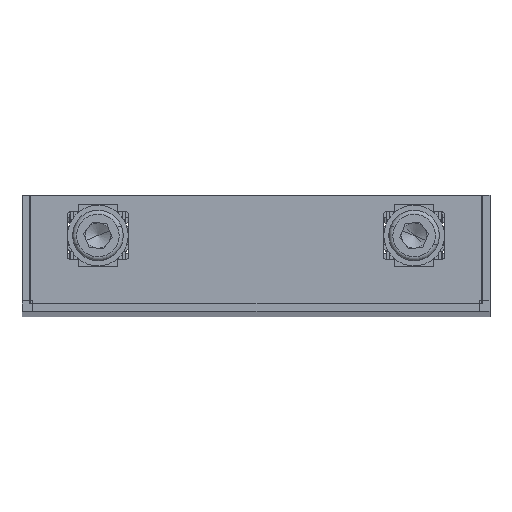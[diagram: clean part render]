
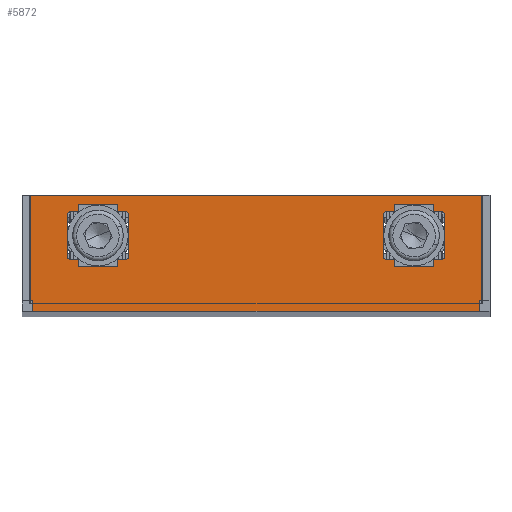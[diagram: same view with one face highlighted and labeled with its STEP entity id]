
A CAD part, top view. The second image highlights one B-rep face of the part: STEP entity #5872.
In plain terms, the highlighted planar face has unit normal (0, 0, 1).
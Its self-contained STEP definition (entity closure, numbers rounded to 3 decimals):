
#5414 = VERTEX_POINT('',#5415);
#5415 = CARTESIAN_POINT('',(-44.15,-1.5,307.));
#5494 = VERTEX_POINT('',#5495);
#5495 = CARTESIAN_POINT('',(44.15,-1.5,307.));
#5501 = EDGE_CURVE('',#5414,#5494,#5502,.T.);
#5502 = LINE('',#5503,#5504);
#5503 = CARTESIAN_POINT('',(-44.75,-1.5,307.));
#5504 = VECTOR('',#5505,1.);
#5505 = DIRECTION('',(1.,0.,0.));
#5518 = VERTEX_POINT('',#5519);
#5519 = CARTESIAN_POINT('',(44.15,0.6,307.));
#5525 = EDGE_CURVE('',#5518,#5494,#5526,.T.);
#5526 = LINE('',#5527,#5528);
#5527 = CARTESIAN_POINT('',(44.15,0.,307.));
#5528 = VECTOR('',#5529,1.);
#5529 = DIRECTION('',(-0.,-1.,-0.));
#5560 = EDGE_CURVE('',#5561,#5414,#5563,.T.);
#5561 = VERTEX_POINT('',#5562);
#5562 = CARTESIAN_POINT('',(-44.15,0.6,307.));
#5563 = LINE('',#5564,#5565);
#5564 = CARTESIAN_POINT('',(-44.15,0.6,307.));
#5565 = VECTOR('',#5566,1.);
#5566 = DIRECTION('',(-0.,-1.,-0.));
#5591 = EDGE_CURVE('',#5592,#5594,#5596,.T.);
#5592 = VERTEX_POINT('',#5593);
#5593 = CARTESIAN_POINT('',(-44.65,0.6,307.));
#5594 = VERTEX_POINT('',#5595);
#5595 = CARTESIAN_POINT('',(-44.65,21.5,307.));
#5596 = LINE('',#5597,#5598);
#5597 = CARTESIAN_POINT('',(-44.65,0.6,307.));
#5598 = VECTOR('',#5599,1.);
#5599 = DIRECTION('',(0.,1.,0.));
#5631 = EDGE_CURVE('',#5632,#5634,#5636,.T.);
#5632 = VERTEX_POINT('',#5633);
#5633 = CARTESIAN_POINT('',(44.65,0.6,307.));
#5634 = VERTEX_POINT('',#5635);
#5635 = CARTESIAN_POINT('',(44.65,21.5,307.));
#5636 = LINE('',#5637,#5638);
#5637 = CARTESIAN_POINT('',(44.65,0.6,307.));
#5638 = VECTOR('',#5639,1.);
#5639 = DIRECTION('',(0.,1.,0.));
#5678 = EDGE_CURVE('',#5634,#5594,#5679,.T.);
#5679 = LINE('',#5680,#5681);
#5680 = CARTESIAN_POINT('',(0.,21.5,307.));
#5681 = VECTOR('',#5682,1.);
#5682 = DIRECTION('',(-1.,0.,0.));
#5859 = EDGE_CURVE('',#5561,#5592,#5860,.T.);
#5860 = LINE('',#5861,#5862);
#5861 = CARTESIAN_POINT('',(-44.15,0.6,307.));
#5862 = VECTOR('',#5863,1.);
#5863 = DIRECTION('',(-1.,0.,0.));
#5872 = ADVANCED_FACE('',(#5873,#5943,#6013),#6028,.F.);
#5873 = FACE_BOUND('',#5874,.T.);
#5874 = EDGE_LOOP('',(#5875,#5885,#5894,#5902,#5911,#5919,#5928,#5936));
#5875 = ORIENTED_EDGE('',*,*,#5876,.F.);
#5876 = EDGE_CURVE('',#5877,#5879,#5881,.T.);
#5877 = VERTEX_POINT('',#5878);
#5878 = CARTESIAN_POINT('',(-36.75,8.75,307.));
#5879 = VERTEX_POINT('',#5880);
#5880 = CARTESIAN_POINT('',(-25.75,8.75,307.));
#5881 = LINE('',#5882,#5883);
#5882 = CARTESIAN_POINT('',(-27.,8.75,307.));
#5883 = VECTOR('',#5884,1.);
#5884 = DIRECTION('',(1.,-0.,-0.));
#5885 = ORIENTED_EDGE('',*,*,#5886,.F.);
#5886 = EDGE_CURVE('',#5887,#5877,#5889,.T.);
#5887 = VERTEX_POINT('',#5888);
#5888 = CARTESIAN_POINT('',(-37.25,9.25,307.));
#5889 = CIRCLE('',#5890,0.5);
#5890 = AXIS2_PLACEMENT_3D('',#5891,#5892,#5893);
#5891 = CARTESIAN_POINT('',(-36.75,9.25,307.));
#5892 = DIRECTION('',(0.,0.,1.));
#5893 = DIRECTION('',(-1.,0.,0.));
#5894 = ORIENTED_EDGE('',*,*,#5895,.F.);
#5895 = EDGE_CURVE('',#5896,#5887,#5898,.T.);
#5896 = VERTEX_POINT('',#5897);
#5897 = CARTESIAN_POINT('',(-37.25,17.75,307.));
#5898 = LINE('',#5899,#5900);
#5899 = CARTESIAN_POINT('',(-37.25,9.25,307.));
#5900 = VECTOR('',#5901,1.);
#5901 = DIRECTION('',(0.,-1.,-0.));
#5902 = ORIENTED_EDGE('',*,*,#5903,.F.);
#5903 = EDGE_CURVE('',#5904,#5896,#5906,.T.);
#5904 = VERTEX_POINT('',#5905);
#5905 = CARTESIAN_POINT('',(-36.75,18.25,307.));
#5906 = CIRCLE('',#5907,0.5);
#5907 = AXIS2_PLACEMENT_3D('',#5908,#5909,#5910);
#5908 = CARTESIAN_POINT('',(-36.75,17.75,307.));
#5909 = DIRECTION('',(0.,0.,1.));
#5910 = DIRECTION('',(-1.,0.,0.));
#5911 = ORIENTED_EDGE('',*,*,#5912,.F.);
#5912 = EDGE_CURVE('',#5913,#5904,#5915,.T.);
#5913 = VERTEX_POINT('',#5914);
#5914 = CARTESIAN_POINT('',(-25.75,18.25,307.));
#5915 = LINE('',#5916,#5917);
#5916 = CARTESIAN_POINT('',(-27.,18.25,307.));
#5917 = VECTOR('',#5918,1.);
#5918 = DIRECTION('',(-1.,0.,0.));
#5919 = ORIENTED_EDGE('',*,*,#5920,.F.);
#5920 = EDGE_CURVE('',#5921,#5913,#5923,.T.);
#5921 = VERTEX_POINT('',#5922);
#5922 = CARTESIAN_POINT('',(-25.25,17.75,307.));
#5923 = CIRCLE('',#5924,0.5);
#5924 = AXIS2_PLACEMENT_3D('',#5925,#5926,#5927);
#5925 = CARTESIAN_POINT('',(-25.75,17.75,307.));
#5926 = DIRECTION('',(0.,0.,1.));
#5927 = DIRECTION('',(-1.,0.,0.));
#5928 = ORIENTED_EDGE('',*,*,#5929,.F.);
#5929 = EDGE_CURVE('',#5930,#5921,#5932,.T.);
#5930 = VERTEX_POINT('',#5931);
#5931 = CARTESIAN_POINT('',(-25.25,9.25,307.));
#5932 = LINE('',#5933,#5934);
#5933 = CARTESIAN_POINT('',(-25.25,17.75,307.));
#5934 = VECTOR('',#5935,1.);
#5935 = DIRECTION('',(0.,1.,-0.));
#5936 = ORIENTED_EDGE('',*,*,#5937,.F.);
#5937 = EDGE_CURVE('',#5879,#5930,#5938,.T.);
#5938 = CIRCLE('',#5939,0.5);
#5939 = AXIS2_PLACEMENT_3D('',#5940,#5941,#5942);
#5940 = CARTESIAN_POINT('',(-25.75,9.25,307.));
#5941 = DIRECTION('',(0.,0.,1.));
#5942 = DIRECTION('',(-1.,0.,0.));
#5943 = FACE_BOUND('',#5944,.T.);
#5944 = EDGE_LOOP('',(#5945,#5955,#5964,#5972,#5981,#5989,#5998,#6006));
#5945 = ORIENTED_EDGE('',*,*,#5946,.F.);
#5946 = EDGE_CURVE('',#5947,#5949,#5951,.T.);
#5947 = VERTEX_POINT('',#5948);
#5948 = CARTESIAN_POINT('',(25.75,8.75,307.));
#5949 = VERTEX_POINT('',#5950);
#5950 = CARTESIAN_POINT('',(36.75,8.75,307.));
#5951 = LINE('',#5952,#5953);
#5952 = CARTESIAN_POINT('',(27.,8.75,307.));
#5953 = VECTOR('',#5954,1.);
#5954 = DIRECTION('',(1.,0.,0.));
#5955 = ORIENTED_EDGE('',*,*,#5956,.F.);
#5956 = EDGE_CURVE('',#5957,#5947,#5959,.T.);
#5957 = VERTEX_POINT('',#5958);
#5958 = CARTESIAN_POINT('',(25.25,9.25,307.));
#5959 = CIRCLE('',#5960,0.5);
#5960 = AXIS2_PLACEMENT_3D('',#5961,#5962,#5963);
#5961 = CARTESIAN_POINT('',(25.75,9.25,307.));
#5962 = DIRECTION('',(0.,0.,1.));
#5963 = DIRECTION('',(1.,0.,-0.));
#5964 = ORIENTED_EDGE('',*,*,#5965,.F.);
#5965 = EDGE_CURVE('',#5966,#5957,#5968,.T.);
#5966 = VERTEX_POINT('',#5967);
#5967 = CARTESIAN_POINT('',(25.25,17.75,307.));
#5968 = LINE('',#5969,#5970);
#5969 = CARTESIAN_POINT('',(25.25,17.75,307.));
#5970 = VECTOR('',#5971,1.);
#5971 = DIRECTION('',(0.,-1.,0.));
#5972 = ORIENTED_EDGE('',*,*,#5973,.F.);
#5973 = EDGE_CURVE('',#5974,#5966,#5976,.T.);
#5974 = VERTEX_POINT('',#5975);
#5975 = CARTESIAN_POINT('',(25.75,18.25,307.));
#5976 = CIRCLE('',#5977,0.5);
#5977 = AXIS2_PLACEMENT_3D('',#5978,#5979,#5980);
#5978 = CARTESIAN_POINT('',(25.75,17.75,307.));
#5979 = DIRECTION('',(0.,0.,1.));
#5980 = DIRECTION('',(1.,0.,-0.));
#5981 = ORIENTED_EDGE('',*,*,#5982,.F.);
#5982 = EDGE_CURVE('',#5983,#5974,#5985,.T.);
#5983 = VERTEX_POINT('',#5984);
#5984 = CARTESIAN_POINT('',(36.75,18.25,307.));
#5985 = LINE('',#5986,#5987);
#5986 = CARTESIAN_POINT('',(27.,18.25,307.));
#5987 = VECTOR('',#5988,1.);
#5988 = DIRECTION('',(-1.,0.,-0.));
#5989 = ORIENTED_EDGE('',*,*,#5990,.F.);
#5990 = EDGE_CURVE('',#5991,#5983,#5993,.T.);
#5991 = VERTEX_POINT('',#5992);
#5992 = CARTESIAN_POINT('',(37.25,17.75,307.));
#5993 = CIRCLE('',#5994,0.5);
#5994 = AXIS2_PLACEMENT_3D('',#5995,#5996,#5997);
#5995 = CARTESIAN_POINT('',(36.75,17.75,307.));
#5996 = DIRECTION('',(0.,0.,1.));
#5997 = DIRECTION('',(1.,0.,-0.));
#5998 = ORIENTED_EDGE('',*,*,#5999,.F.);
#5999 = EDGE_CURVE('',#6000,#5991,#6002,.T.);
#6000 = VERTEX_POINT('',#6001);
#6001 = CARTESIAN_POINT('',(37.25,9.25,307.));
#6002 = LINE('',#6003,#6004);
#6003 = CARTESIAN_POINT('',(37.25,9.25,307.));
#6004 = VECTOR('',#6005,1.);
#6005 = DIRECTION('',(0.,1.,0.));
#6006 = ORIENTED_EDGE('',*,*,#6007,.F.);
#6007 = EDGE_CURVE('',#5949,#6000,#6008,.T.);
#6008 = CIRCLE('',#6009,0.5);
#6009 = AXIS2_PLACEMENT_3D('',#6010,#6011,#6012);
#6010 = CARTESIAN_POINT('',(36.75,9.25,307.));
#6011 = DIRECTION('',(0.,0.,1.));
#6012 = DIRECTION('',(1.,0.,-0.));
#6013 = FACE_BOUND('',#6014,.T.);
#6014 = EDGE_LOOP('',(#6015,#6016,#6017,#6018,#6019,#6025,#6026,#6027));
#6015 = ORIENTED_EDGE('',*,*,#5859,.F.);
#6016 = ORIENTED_EDGE('',*,*,#5560,.T.);
#6017 = ORIENTED_EDGE('',*,*,#5501,.T.);
#6018 = ORIENTED_EDGE('',*,*,#5525,.F.);
#6019 = ORIENTED_EDGE('',*,*,#6020,.T.);
#6020 = EDGE_CURVE('',#5518,#5632,#6021,.T.);
#6021 = LINE('',#6022,#6023);
#6022 = CARTESIAN_POINT('',(44.15,0.6,307.));
#6023 = VECTOR('',#6024,1.);
#6024 = DIRECTION('',(1.,0.,0.));
#6025 = ORIENTED_EDGE('',*,*,#5631,.T.);
#6026 = ORIENTED_EDGE('',*,*,#5678,.T.);
#6027 = ORIENTED_EDGE('',*,*,#5591,.F.);
#6028 = PLANE('',#6029);
#6029 = AXIS2_PLACEMENT_3D('',#6030,#6031,#6032);
#6030 = CARTESIAN_POINT('',(0.,0.,307.));
#6031 = DIRECTION('',(0.,0.,-1.));
#6032 = DIRECTION('',(-1.,0.,0.));
